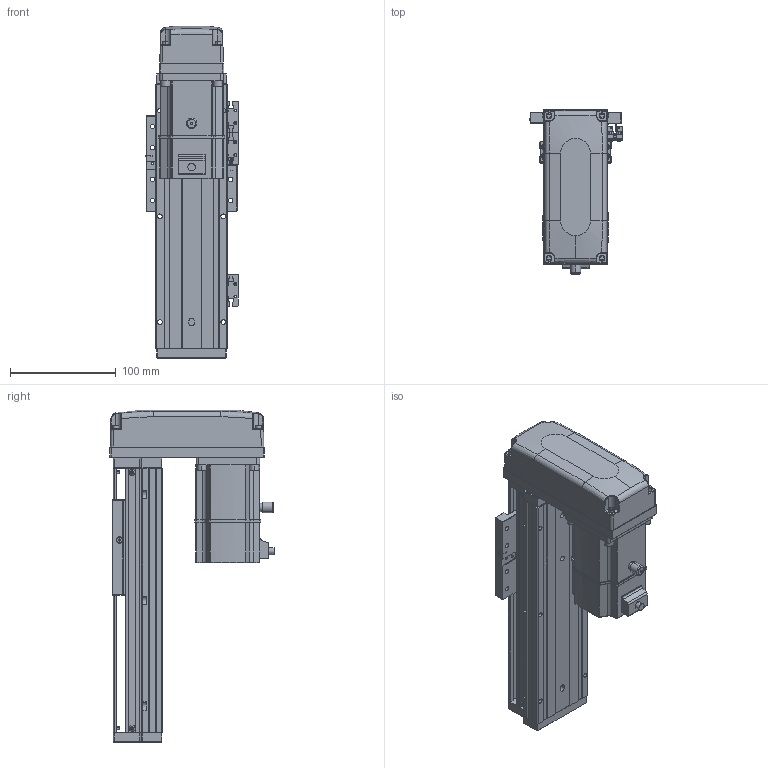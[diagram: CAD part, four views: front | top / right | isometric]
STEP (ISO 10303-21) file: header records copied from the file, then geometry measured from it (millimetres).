
FILE_DESCRIPTION (( 'STEP AP203' ), '1' );
FILE_NAME ('KTHAL60-100-BM-M20-C4L.step', '2022-12-16T02:09:21', ( '微软用户' ), ( '微软中国' ), 'SwSTEP 2.0', 'SolidWorks 2020', '' );
FILE_SCHEMA (( 'CONFIG_CONTROL_DESIGN' ));
Length unit declared in the file: millimetre
Products named in the file (17): KTHA60-004; GBT 70.1-M4×16; KTHAL60-100-BM-M20-C4L; KTHA60-005; GBT77-2000M3-3; GB¨uT 70.2-M3¡Á5_M3¡Á6; GBT 70.1-M3℅6; GBT 70.3-M3℅6; CTHA60-016; EE_SX911P_R; _X2_4E0983F1_X0_200W_1; KTHA60-001_250; CTHA60-017; CTHA60-015-4_CTHA60-015-4; KTHLA60-002; CTHA60-021; GTH80-026
Assembly tree (45 placements, depth 2):
  KTHAL60-100-BM-M20-C4L
    KTHA60-001_250
    KTHLA60-002
    KTHA60-004
    KTHA60-005
    GB¨uT 70.2-M3¡Á5_M3¡Á6  x5
    GBT 70.3-M3℅6  x4
    EE_SX911P_R  x3
    CTHA60-017  x3
    CTHA60-021  x2
    GBT 70.1-M4×16  x8
    GBT77-2000M3-3  x6
    GBT 70.1-M3℅6  x6
    CTHA60-016
    _X2_4E0983F1_X0_200W_1
    CTHA60-015-4_CTHA60-015-4
    GTH80-026
Bounding box: 87.82 x 155.2 x 314 mm (x, y, z)
Volume: 1268392.6 mm3; surface area: 248328.5 mm2
Topology: 48 solids, 48 shells, 2271 faces, 5380 edges, 3301 vertices
Faces by surface type: plane 1211, cylinder 599, cone 262, bspline 103, torus 82, sphere 14
Entity records: 43309 total; most frequent: CARTESIAN_POINT 9818, DIRECTION 6481, ORIENTED_EDGE 6384, EDGE_CURVE 3192, AXIS2_PLACEMENT_3D 2248, VECTOR 1985, LINE 1985, VERTEX_POINT 1985
